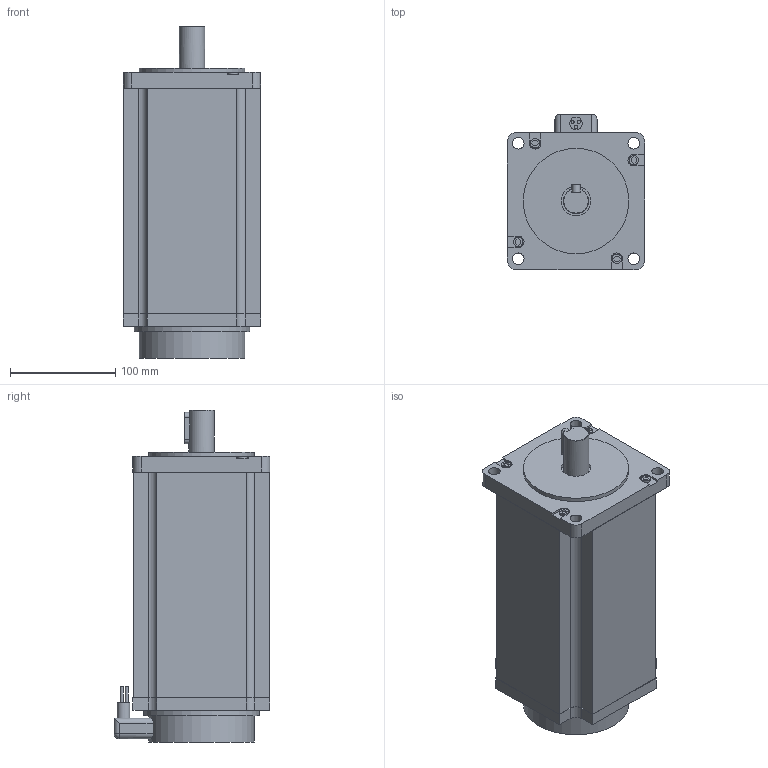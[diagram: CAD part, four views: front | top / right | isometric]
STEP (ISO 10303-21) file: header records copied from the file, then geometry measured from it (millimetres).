
FILE_DESCRIPTION(/* description */ (''),/* implementation_level */ '2;1');
FILE_NAME(/* name */ 'STC-130E68-03271.stp',/* time_stamp */ '2018-08-21T09:04:16+08:00',/* author */ (''),/* organization */ (''),/* preprocessor_version */ 'ST-DEVELOPER v11',/* originating_system */ 'SIEMENS UGS NX 6.0',/* authorisation */ '');
FILE_SCHEMA (('CONFIG_CONTROL_DESIGN'));
Length unit declared in the file: millimetre
Products named in the file (1): STC-130E68-03271
Bounding box: 130 x 148 x 315 mm (x, y, z)
Volume: 3930174.5 mm3; surface area: 178060.2 mm2
Topology: 2 solids, 3 shells, 151 faces, 375 edges, 248 vertices
Faces by surface type: plane 103, cylinder 45, sphere 2, torus 1
Full cylindrical faces by diameter (mm): 3 x3, 9 x4, 11 x4, 12 x1, 24 x1, 28 x1, 100 x2, 110 x1
Entity records: 4473 total; most frequent: CARTESIAN_POINT 825, DIRECTION 730, ORIENTED_EDGE 698, EDGE_CURVE 349, LINE 256, VECTOR 256, VERTEX_POINT 241, AXIS2_PLACEMENT_3D 237
